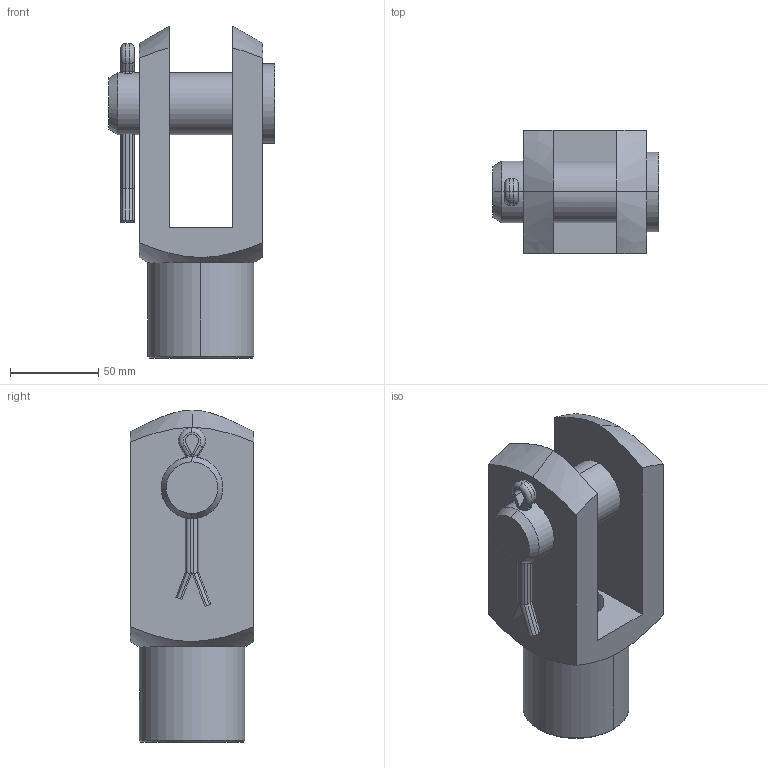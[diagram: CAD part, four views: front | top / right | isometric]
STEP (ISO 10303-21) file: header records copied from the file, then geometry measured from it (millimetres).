
FILE_DESCRIPTION (( 'STEP AP203' ), '1' );
FILE_NAME ('MJ5-GS.STEP', '2024-01-15T15:24:15', ( '' ), ( '' ), 'SwSTEP 2.0', 'SolidWorks 2022', '' );
FILE_SCHEMA (( 'CONFIG_CONTROL_DESIGN' ));
Length unit declared in the file: millimetre
Products named in the file (1): MJ5-GS
Bounding box: 94 x 70 x 188 mm (x, y, z)
Volume: 499305.5 mm3; surface area: 84068.8 mm2
Topology: 3 solids, 3 shells, 83 faces, 212 edges, 132 vertices
Faces by surface type: cylinder 44, plane 25, cone 10, torus 4
Entity records: 2803 total; most frequent: CARTESIAN_POINT 788, ORIENTED_EDGE 424, DIRECTION 388, EDGE_CURVE 212, AXIS2_PLACEMENT_3D 142, VERTEX_POINT 132, LINE 104, VECTOR 104
